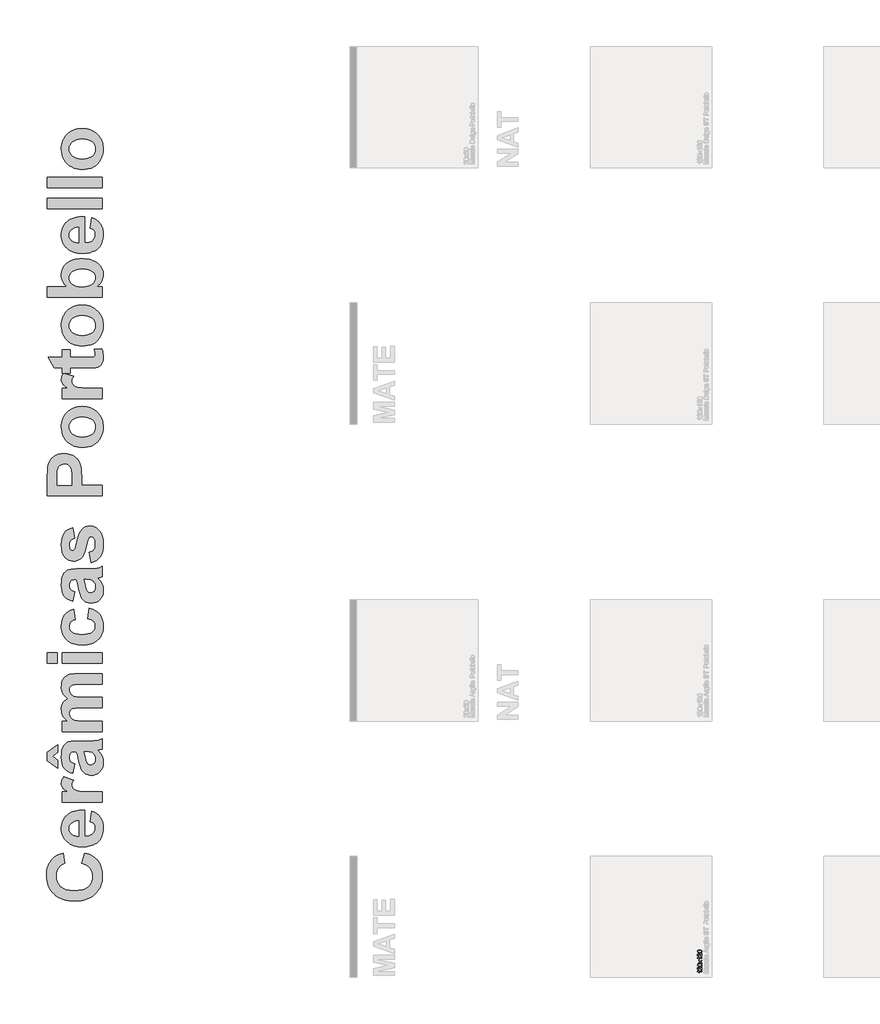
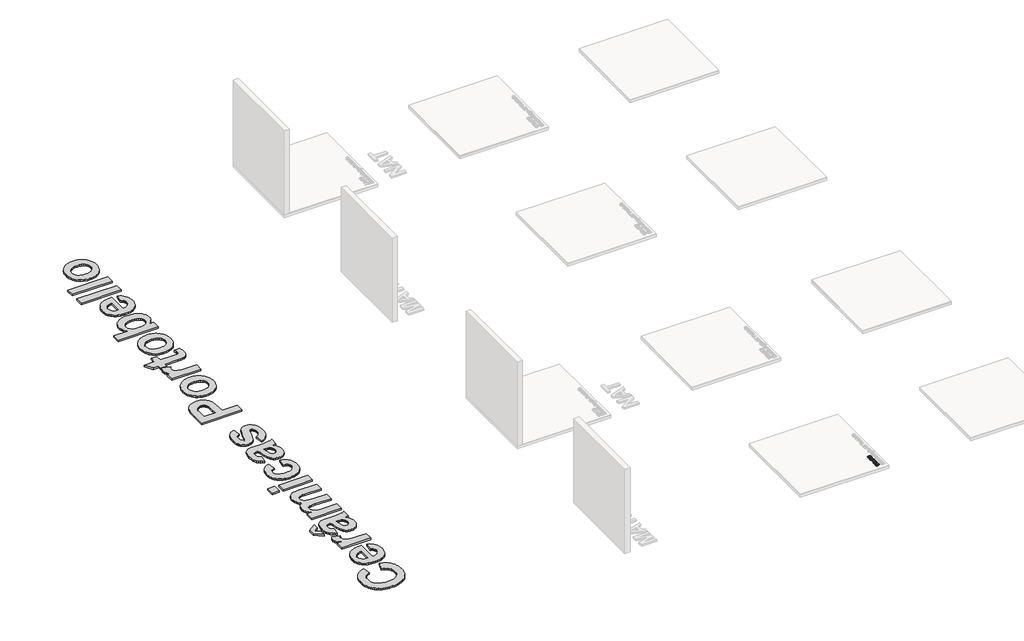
# One storey, part 7 of 21: 2 proxies.
"""IFC4 building model written with IfcOpenShell, lengths in millimetres."""

from ifc_helpers import new_model, si_unit, frame, origin, origin_with_axes, place, context, project, spatial, polyline, outline, extrude, element, save

model = new_model("IFC4")

# Units and contexts
model_context = context("Model", 3, world=origin())
ifc_project = project(units=[si_unit("LENGTHUNIT", "METRE", prefix="MILLI")], contexts=[model_context])

# Site, building, storey
site = spatial("IfcSite", under=ifc_project)
building = spatial("IfcBuilding", under=site)
storey = spatial("IfcBuildingStorey", under=building, Name="PORTOBELLO - SHOWROOM", Elevation=0.0)

# Proxies
placement = place(None, origin())
element("IfcBuildingElementProxy", 1, Name="10mm Arial", ObjectType="10mm Arial", at=placement, inside=storey, context=model_context, shape_type="SweptSolid", body=[
    extrude(outline(polyline([(23019.4374935, 4712.2496861), (23019.4374935, 4699.6926473), (22941.1522049, 4699.6926473), (22949.6257535, 4687.7977962), (22955.9655865, 4674.5785698), (22944.0952608, 4674.5785698), (22932.3475625, 4692.9849323), (22918.9811833, 4704.1562822), (22918.9811833, 4712.2496861), (23019.4374935, 4712.2496861)])), frame((0.0, 0.0, 17.0), z_axis=(0.0, 0.0, 1.0), x_axis=(1.0, 0.0, 0.0)), (0.0, 0.0, 1.0), 20.0),
    extrude(outline(polyline([(23006.8804547, 4806.4274769), (23019.4374935, 4806.4274769), (23019.4374935, 4740.5030233), (23010.7800038, 4741.851924), (22997.4504129, 4749.4916067), (22982.8945486, 4765.2246934), (22961.9743258, 4786.8929429), (22947.7495553, 4792.3008083), (22936.2348489, 4787.1872485), (22931.5382221, 4773.8331321), (22936.1244843, 4759.9149299), (22948.8041504, 4754.6296919), (22947.2345205, 4742.0726532), (22935.0882833, 4745.1168767), (22926.2161959, 4751.6988987), (22920.7899364, 4761.4753627), (22918.9811833, 4774.1029122), (22920.9922715, 4786.8224322), (22927.0255363, 4796.5805021), (22936.0386451, 4802.7885108), (22946.9892659, 4804.857847), (22958.8963798, 4802.6260296), (22971.2081639, 4795.207076), (22988.4127785, 4777.2176465), (23000.4915707, 4762.7721468), (23006.8804547, 4757.106764), (23006.8804547, 4806.4274769)])), frame((0.0, 0.0, 17.0), z_axis=(0.0, 0.0, 1.0), x_axis=(1.0, 0.0, 0.0)), (0.0, 0.0, 1.0), 20.0),
    extrude(outline(polyline([(22970.0186788, 4818.9845156), (22941.1154167, 4822.6755983), (22924.4503623, 4833.6384818), (22918.9811833, 4851.9467424), (22922.2185449, 4866.6129713), (22931.5504848, 4876.7419889), (22946.4129174, 4882.6281008), (22970.0186788, 4884.9089692), (22998.7993135, 4881.2546747), (23015.5011561, 4870.3285794), (23019.6306315, 4862.0972198), (23021.0071233, 4851.9467424), (23018.6158903, 4838.8991943), (23011.4421914, 4828.9909059), (22994.4521746, 4821.4861132), (22970.0186788, 4818.9845156)]), holes=[polyline([(22969.9941533, 4831.5415544), (22989.7463508, 4833.0130824), (23001.1782838, 4837.4276663), (23006.6321343, 4844.0004913), (23008.4500845, 4851.9467424), (23006.626003, 4859.8929935), (23001.1537583, 4866.4658185), (22989.7156939, 4870.8804024), (22969.9941533, 4872.3519304), (22950.6864799, 4870.9294534), (22939.1656421, 4866.6620222), (22933.4450771, 4860.10146), (22931.5382221, 4851.7995896), (22933.2182165, 4843.9391776), (22938.2581998, 4837.6238701), (22950.4964076, 4833.0621333), (22969.9941533, 4831.5415544)])]), frame((0.0, 0.0, 17.0), z_axis=(0.0, 0.0, 1.0), x_axis=(1.0, 0.0, 0.0)), (0.0, 0.0, 1.0), 20.0),
    extrude(outline(polyline([(23019.4374935, 4891.1874886), (22982.3304629, 4918.0183487), (22945.6648907, 4892.7571184), (22945.6648907, 4907.8157547), (22963.3477519, 4920.0049115), (22971.661885, 4925.7193452), (22964.8438054, 4930.6734894), (22945.6648907, 4944.5549033), (22945.6648907, 4959.6625906), (22982.3549883, 4933.126036), (23019.4374935, 4958.6815719), (23019.4374935, 4943.5984101), (22997.1193191, 4928.1964173), (22993.0235662, 4925.4005141), (23019.4374935, 4906.2951758), (23019.4374935, 4891.1874886)])), frame((0.0, 0.0, 17.0), z_axis=(0.0, 0.0, 1.0), x_axis=(1.0, 0.0, 0.0)), (0.0, 0.0, 1.0), 20.0),
    extrude(outline(polyline([(23019.4374935, 5013.6186166), (23019.4374935, 5001.0615778), (22941.1522049, 5001.0615778), (22949.6257535, 4989.1667266), (22955.9655865, 4975.9475002), (22944.0952608, 4975.9475002), (22932.3475625, 4994.3538627), (22918.9811833, 5005.5252127), (22918.9811833, 5013.6186166), (23019.4374935, 5013.6186166)])), frame((0.0, 0.0, 17.0), z_axis=(0.0, 0.0, 1.0), x_axis=(1.0, 0.0, 0.0)), (0.0, 0.0, 1.0), 20.0),
    extrude(outline(polyline([(23006.8804547, 5107.7964073), (23019.4374935, 5107.7964073), (23019.4374935, 5041.8719538), (23010.7800038, 5043.2208544), (22997.4504129, 5050.8605372), (22982.8945486, 5066.5936239), (22961.9743258, 5088.2618734), (22947.7495553, 5093.6697387), (22936.2348489, 5088.556179), (22931.5382221, 5075.2020625), (22936.1244843, 5061.2838604), (22948.8041504, 5055.9986224), (22947.2345205, 5043.4415836), (22935.0882833, 5046.4858071), (22926.2161959, 5053.0678292), (22920.7899364, 5062.8442932), (22918.9811833, 5075.4718427), (22920.9922715, 5088.1913627), (22927.0255363, 5097.9494326), (22936.0386451, 5104.1574412), (22946.9892659, 5106.2267775), (22958.8963798, 5103.99496), (22971.2081639, 5096.5760065), (22988.4127785, 5078.5865769), (23000.4915707, 5064.1410772), (23006.8804547, 5058.4756945), (23006.8804547, 5107.7964073)])), frame((0.0, 0.0, 17.0), z_axis=(0.0, 0.0, 1.0), x_axis=(1.0, 0.0, 0.0)), (0.0, 0.0, 1.0), 20.0),
    extrude(outline(polyline([(22970.0186788, 5120.3534461), (22941.1154167, 5124.0445288), (22924.4503623, 5135.0074122), (22918.9811833, 5153.3156729), (22922.2185449, 5167.9819017), (22931.5504848, 5178.1109193), (22946.4129174, 5183.9970313), (22970.0186788, 5186.2778996), (22998.7993135, 5182.6236051), (23015.5011561, 5171.6975099), (23019.6306315, 5163.4661502), (23021.0071233, 5153.3156729), (23018.6158903, 5140.2681248), (23011.4421914, 5130.3598364), (22994.4521746, 5122.8550437), (22970.0186788, 5120.3534461)]), holes=[polyline([(22969.9941533, 5132.9104849), (22989.7463508, 5134.3820128), (23001.1782838, 5138.7965968), (23006.6321343, 5145.3694218), (23008.4500845, 5153.3156729), (23006.626003, 5161.2619239), (23001.1537583, 5167.8347489), (22989.7156939, 5172.2493329), (22969.9941533, 5173.7208609), (22950.6864799, 5172.2983838), (22939.1656421, 5168.0309527), (22933.4450771, 5161.4703904), (22931.5382221, 5153.1685201), (22933.2182165, 5145.3081081), (22938.2581998, 5138.9928005), (22950.4964076, 5134.4310638), (22969.9941533, 5132.9104849)])]), frame((0.0, 0.0, 17.0), z_axis=(0.0, 0.0, 1.0), x_axis=(1.0, 0.0, 0.0)), (0.0, 0.0, 1.0), 20.0),
])
element("IfcBuildingElementProxy", 2, Name="1200mm Arial", ObjectType="1200mm Arial", at=placement, inside=storey, context=model_context, shape_type="SweptSolid", body=[
    extrude(outline(polyline([(9212.435838, 7109.5470521), (9290.1698875, 7342.7492006), (9337.8545838, 7327.789761), (9382.3746921, 7310.5434677), (9423.7302122, 7291.0103206), (9461.9211443, 7269.1903198), (9496.9474884, 7245.0834652), (9528.8092443, 7218.6897568), (9557.5064122, 7190.0091947), (9583.038992, 7159.0417789), (9605.4923849, 7125.8491879), (9624.9519921, 7090.4931005), (9641.4178136, 7052.9735165), (9654.8898493, 7013.290436), (9665.3680993, 6971.4438591), (9672.8525636, 6927.4337856), (9678.8401351, 6832.9231493), (9676.2828443, 6773.1755366), (9668.6109718, 6716.1512726), (9655.8245178, 6661.8503573), (9637.9234821, 6610.2727906), (9614.9078647, 6561.4185726), (9586.7776658, 6515.2877033), (9553.5328852, 6471.8801826), (9515.173523, 6431.1960105), (9472.3780441, 6394.3311689), (9425.8249133, 6362.3816395), (9375.5141308, 6335.3474224), (9321.4456965, 6313.2285174), (9263.6196103, 6296.0249247), (9202.0358723, 6283.7366441), (9136.6944826, 6276.3636758), (9067.595441, 6273.9060197), (8994.6153904, 6276.3850261), (8925.8294864, 6283.8220453), (8861.2377292, 6296.2170773), (8800.8401187, 6313.5701221), (8744.6366549, 6335.8811797), (8692.6273379, 6363.1502501), (8644.8121675, 6395.3773334), (8601.1911439, 6432.5624294), (8562.2624405, 6473.7898478), (8528.5242309, 6518.1438982), (8499.9765151, 6565.6245806), (8476.619293, 6616.231895), (8458.4525648, 6669.9658414), (8445.4763303, 6726.8264198), (8437.6905896, 6786.8136302), (8435.0953427, 6849.9274726), (8437.2351167, 6905.0776552), (8443.6544385, 6957.5709123), (8454.3533083, 7007.4072438), (8469.3317259, 7054.5866499), (8488.5896914, 7099.1091304), (8512.1272048, 7140.9746854), (8539.9442661, 7180.1833148), (8572.0408753, 7216.7350188), (8616.8480264, 7256.1524067), (8670.4989439, 7290.2938996), (8732.9936277, 7319.1594976), (8804.332078, 7342.7492006), (8843.1991027, 7109.5470521), (8800.489025, 7094.8485605), (8762.5424351, 7073.8303818), (8729.3593332, 7046.492516), (8700.9397191, 7012.8349631), (8678.1565828, 6974.0343615), (8661.882914, 6931.2673496), (8652.1187127, 6884.5339275), (8648.8639789, 6833.8340952), (8654.7756382, 6764.5357842), (8662.1652123, 6732.4557808), (8672.5106161, 6702.0885454), (8685.8118495, 6673.4340781), (8702.0689125, 6646.4923789), (8721.2818052, 6621.2634477), (8743.4505275, 6597.7472846), (8768.9261732, 6576.5037417), (8798.0598359, 6558.0926712), (8830.8515158, 6542.5140731), (8867.3012128, 6529.7679474), (8907.4089269, 6519.854294), (8951.1746581, 6512.773113), (9049.6801718, 6507.1081683), (9153.9455204, 6512.6023107), (9200.0147111, 6519.4699887), (9242.0415795, 6529.0847379), (9280.0261254, 6541.4465584), (9313.9683489, 6556.55545), (9343.86825, 6574.4114129), (9369.7258288, 6595.0144469), (9392.0724702, 6617.8189336), (9411.4395595, 6642.2792541), (9427.8270965, 6668.3954086), (9441.2350814, 6696.1673971), (9451.663514, 6725.5952195), (9459.1123945, 6756.6788758), (9465.0714989, 6823.8136903), (9461.266402, 6873.7923572), (9449.8511113, 6920.1841746), (9430.8256267, 6962.9891425), (9404.1899484, 7002.207261), (9369.374735, 7036.9845183), (9325.8106455, 7066.4669025), (9273.4976798, 7090.6544138), (9212.435838, 7109.5470521)])), origin_with_axes(), (0.0, 0.0, 1.0), 50.0),
    extrude(outline(polyline([(9406.7709618, 8042.3556463), (9445.6379865, 8275.5577949), (9503.7392542, 8250.3549585), (9554.4580646, 8218.7755009), (9597.7944177, 8180.819422), (9633.7483134, 8136.4867219), (9661.978147, 8085.986159), (9682.1423139, 8029.5264916), (9694.2408141, 7967.1077199), (9698.2736475, 7898.7298439), (9695.896648, 7844.0873238), (9688.7656497, 7793.1170544), (9676.8806525, 7745.8190356), (9660.2416564, 7702.1932675), (9638.8486615, 7662.23975), (9612.7016676, 7625.9584831), (9581.8006749, 7593.3494668), (9546.1456834, 7564.4127012), (9514.7038165, 7544.3434245), (9481.2597665, 7526.9500514), (9445.8135334, 7512.2325818), (9408.3651171, 7500.1910158), (9327.461735, 7484.1355944), (9238.5496202, 7478.7837873), (9184.6330102, 7480.558234), (9133.7149304, 7485.881574), (9085.7953808, 7494.7538075), (9040.8743615, 7507.1749343), (8998.9518724, 7523.1449544), (8960.0279135, 7542.663868), (8924.1024848, 7565.7316749), (8891.1755864, 7592.3483752), (8861.7121802, 7621.6789352), (8836.1772281, 7652.888321), (8814.5707302, 7685.9765328), (8796.8926865, 7720.9435704), (8783.1430969, 7757.789434), (8773.3219615, 7796.5141235), (8767.4292803, 7837.1176388), (8765.4650532, 7879.5999801), (8767.4814699, 7927.0498232), (8773.53072, 7971.928142), (8783.6128034, 8014.2349364), (8797.7277202, 8053.9702064), (8815.8754705, 8091.1339522), (8838.056054, 8125.7261735), (8864.269471, 8157.7468706), (8894.5157214, 8187.1960433), (8928.9276514, 8213.5233285), (8967.6381073, 8236.178363), (9010.6470892, 8255.161147), (9057.954597, 8270.4716803), (9109.5606307, 8282.109963), (9165.4651904, 8290.075995), (9225.6682759, 8294.3697764), (9290.1698875, 8294.9913072), (9290.1698875, 7711.9859358), (9342.3594959, 7716.3319069), (9388.4002196, 7726.9406309), (9428.2920585, 7743.812108), (9462.0350126, 7766.946338), (9488.8699603, 7794.825078), (9508.0377802, 7825.9300846), (9519.5384721, 7860.2613579), (9523.372036, 7897.818898), (9521.6450344, 7923.344361), (9516.4640297, 7946.7822397), (9507.8290217, 7968.1325341), (9495.7400106, 7987.3952441), (9479.8174355, 8004.4944576), (9459.6817357, 8019.3542625), (9435.3329111, 8031.9746587), (9406.7709618, 8042.3556463)]), holes=[polyline([(9154.1353008, 8061.7891587), (9104.8967775, 8057.632968), (9061.9399852, 8047.5935852), (9025.264924, 8031.6710101), (8994.8715939, 8009.8652428), (8971.0256873, 7983.7894166), (8953.9928969, 7955.0566649), (8943.7732227, 7923.6669877), (8940.3666646, 7889.6203849), (8943.9535141, 7853.4482418), (8954.7140624, 7820.5403214), (8972.6483097, 7790.8966238), (8997.7562559, 7764.517149), (9029.1649111, 7743.0340083), (9065.697637, 7727.7756646), (9107.3544336, 7718.7421179), (9154.1353008, 7715.933368), (9154.1353008, 8061.7891587)])]), origin_with_axes(), (0.0, 0.0, 1.0), 50.0),
    extrude(outline(polyline([(9678.8401351, 8703.0950672), (9678.8401351, 8469.8929187), (8784.8985656, 8469.8929187), (8784.8985656, 8703.0950672), (8909.3945043, 8703.0950672), (8836.1772281, 8752.3620576), (8810.9269467, 8775.0028586), (8793.2489029, 8796.3151969), (8781.0934687, 8817.6844693), (8772.4110156, 8840.4960727), (8767.2015438, 8864.7500071), (8765.4650532, 8890.4462725), (8768.5394956, 8927.1687788), (8777.7628228, 8963.2460318), (8793.1350347, 8998.6780314), (8814.6561314, 9033.4647777), (9036.6232806, 8965.4474844), (9020.0174961, 8936.8286009), (9008.1562215, 8909.2724876), (9001.0394567, 8882.7791446), (8998.6672018, 8857.3485717), (9000.3277802, 8833.9960942), (9005.3095156, 8812.5224426), (9013.6124078, 8792.9276169), (9025.236457, 8775.2116171), (9041.1874991, 8759.3269981), (9062.4713703, 8745.2263148), (9089.0880707, 8732.9095672), (9121.0376, 8722.3767553), (9165.1425637, 8713.9410168), (9228.2255668, 8707.9154892), (9411.3256912, 8703.0950672), (9678.8401351, 8703.0950672)])), origin_with_axes(), (0.0, 0.0, 1.0), 50.0),
    extrude(outline(polyline([(9056.9677389, 9324.9674634), (9018.1007142, 9111.1988272), (8957.9023731, 9131.2870819), (8906.0543693, 9157.5431995), (8862.556703, 9189.9671799), (8827.4093739, 9228.5590231), (8800.3087336, 9275.2734671), (8780.9511334, 9332.0652501), (8769.3365733, 9398.9343721), (8765.4650532, 9475.880833), (8767.8088411, 9545.663084), (8774.8402047, 9605.9183592), (8786.559144, 9656.6466586), (8802.9656591, 9697.8479822), (8822.9685127, 9731.5909363), (8845.4764675, 9759.9441272), (8870.4895234, 9782.9075549), (8898.0076806, 9800.4812194), (8932.8039159, 9813.5001545), (8979.6512063, 9822.7993938), (9038.5495516, 9828.3789374), (9109.4989521, 9830.2387853), (9385.211909, 9830.2387853), (9487.5414976, 9833.3132277), (9558.8989259, 9842.5365548), (9616.8199022, 9860.1861315), (9678.8401351, 9888.5393224), (9678.8401351, 9655.3371738), (9604.7498691, 9633.4744724), (9575.2959519, 9625.2759594), (9604.0571707, 9595.6132838), (9629.0038035, 9564.925794), (9650.1358504, 9533.2134901), (9667.4533114, 9500.4763721), (9680.9372084, 9466.6764838), (9690.5685634, 9431.7758693), (9696.3473765, 9395.7745285), (9698.2736475, 9358.6724614), (9693.5955607, 9295.6938376), (9679.5613006, 9239.7560663), (9656.170867, 9190.8591477), (9623.4242599, 9149.0030818), (9583.5419101, 9115.4593971), (9538.744248, 9091.4996223), (9489.0312737, 9077.1237574), (9434.4029872, 9072.3318024), (9397.6235467, 9074.4668319), (9362.8937346, 9080.8719202), (9330.2135507, 9091.5470674), (9299.582995, 9106.4922734), (9271.7042551, 9125.2900215), (9247.2795184, 9147.5227947), (9226.3087848, 9173.190593), (9208.7920544, 9202.2934165), (9193.5147326, 9236.5108216), (9179.262225, 9277.5223648), (9153.8316522, 9379.9278656), (9123.8463499, 9512.5464051), (9109.5938423, 9560.8075594), (9095.8347637, 9597.0366367), (9071.2392246, 9597.0366367), (9038.4072163, 9595.2242339), (9010.6613227, 9589.7870256), (8988.0015436, 9580.7250118), (8970.4278791, 9568.0381925), (8957.2760978, 9550.3411707), (8947.8819682, 9526.2485496), (8942.2454905, 9495.7603293), (8940.3666646, 9458.8765096), (8941.979798, 9433.1992223), (8946.819198, 9410.5204652), (8954.8848648, 9390.8402383), (8966.1767983, 9374.1585416), (8981.5300322, 9359.6972755), (9001.7796002, 9346.6783405), (9056.9677389, 9324.9674634)]), holes=[polyline([(9270.7363751, 9597.0366367), (9285.6531141, 9543.3667412), (9303.0749543, 9465.5567795), (9321.6354769, 9391.1628649), (9339.9682629, 9347.7411107), (9355.5492333, 9329.2754783), (9373.1418759, 9316.0857409), (9392.7461906, 9308.1718985), (9414.3621775, 9305.533951), (9435.778895, 9307.6500024), (9455.6963474, 9313.9981566), (9474.1145347, 9324.5784136), (9491.0334568, 9339.3907734), (9505.1815852, 9357.4673559), (9515.2873912, 9377.8402812), (9521.3508748, 9400.5095494), (9523.372036, 9425.4751602), (9521.0187591, 9454.4166704), (9513.9589285, 9482.637015), (9502.192544, 9510.1361941), (9485.7196058, 9536.9142078), (9470.6510425, 9554.9433452), (9453.9883239, 9569.5564356), (9435.7314499, 9580.7534789), (9415.8804207, 9588.534475), (9376.6338351, 9594.9110963), (9312.9435348, 9597.0366367), (9270.7363751, 9597.0366367)])]), origin_with_axes(), (0.0, 0.0, 1.0), 50.0),
    extrude(outline(polyline([(8687.7310037, 9227.7999015), (8454.5288551, 9394.1993512), (8454.5288551, 9588.534475), (8687.7310037, 9752.5047357), (8687.7310037, 9577.6031243), (8571.1299294, 9490.1523186), (8687.7310037, 9402.7015129), (8687.7310037, 9227.7999015)])), origin_with_axes(), (0.0, 0.0, 1.0), 50.0),
    extrude(outline(polyline([(8784.8985656, 10044.0074215), (8784.8985656, 10277.20957), (8904.5361262, 10277.20957), (8871.9413435, 10305.2638568), (8843.6925318, 10334.6181393), (8819.7896911, 10365.2724175), (8800.2328215, 10397.2266914), (8785.0219228, 10430.480961), (8774.1569953, 10465.0352263), (8767.6380387, 10500.8894873), (8765.4650532, 10538.043744), (8767.6000826, 10576.9392358), (8774.005171, 10613.1588241), (8784.6803181, 10646.7025088), (8799.6255242, 10677.5702899), (8818.8977232, 10705.7811455), (8842.5538494, 10731.3540537), (8870.5939027, 10754.2890143), (8903.017883, 10774.5860275), (8870.5939027, 10803.8596533), (8842.5538494, 10834.2909395), (8818.8977232, 10865.8798862), (8799.6255242, 10898.6264932), (8784.6803181, 10932.5117826), (8774.005171, 10967.5167764), (8767.6000826, 11003.6414744), (8765.4650532, 11040.8858768), (8767.9606654, 11087.0214907), (8775.447502, 11129.4753649), (8787.9255629, 11168.2474995), (8805.3948482, 11203.3378944), (8827.7035335, 11234.4998351), (8854.6997946, 11261.4866072), (8886.3836315, 11284.2982106), (8922.755044, 11302.9346453), (8955.7198985, 11313.2966549), (8997.5285194, 11320.6980902), (9048.1809067, 11325.1389515), (9107.6770603, 11326.6192385), (9678.8401351, 11326.6192385), (9678.8401351, 11093.41709), (9164.1557056, 11093.41709), (9103.1413089, 11091.9368029), (9054.0071648, 11087.4959417), (9016.7532734, 11080.0945063), (8991.3796346, 11069.7324968), (8969.0614603, 11051.7792715), (8953.1199071, 11029.4990532), (8943.5549753, 11002.8918419), (8940.3666646, 10971.9576376), (8942.2739576, 10948.3204895), (8947.9958365, 10925.3855288), (8957.5323013, 10903.1527556), (8970.883352, 10881.6221699), (8987.9161424, 10861.922965), (9008.4978262, 10845.1843342), (9032.6284033, 10831.4062776), (9060.3078739, 10820.5887951), (9094.0318499, 10812.4187491), (9136.2959437, 10806.583002), (9246.4444846, 10801.9144043), (9678.8401351, 10801.9144043), (9678.8401351, 10568.7122557), (9185.4111098, 10568.7122557), (9077.2742411, 10565.6757694), (9040.7130481, 10561.8801615), (9015.8233494, 10556.5663105), (8982.5738243, 10541.1181864), (8959.0410554, 10519.0657046), (8945.0352623, 10489.1183583), (8940.3666646, 10449.985641), (8942.2170235, 10424.3842658), (8947.7681, 10400.1113534), (8957.0198942, 10377.1669037), (8969.9724061, 10355.5509168), (8986.4263663, 10336.0794483), (9006.1825054, 10319.568554), (9029.2408233, 10306.0182339), (9055.6013201, 10295.4284879), (9088.2150808, 10287.4577113), (9130.0331907, 10281.7642995), (9241.2824579, 10277.20957), (9678.8401351, 10277.20957), (9678.8401351, 10044.0074215), (8784.8985656, 10044.0074215)])), origin_with_axes(), (0.0, 0.0, 1.0), 50.0),
    extrude(outline(polyline([(8668.2974913, 11559.8213871), (8454.5288551, 11559.8213871), (8454.5288551, 11793.0235357), (8668.2974913, 11793.0235357), (8668.2974913, 11559.8213871)])), origin_with_axes(), (0.0, 0.0, 1.0), 50.0),
    extrude(outline(polyline([(9678.8401351, 11559.8213871), (8784.8985656, 11559.8213871), (8784.8985656, 11793.0235357), (9678.8401351, 11793.0235357), (9678.8401351, 11559.8213871)])), origin_with_axes(), (0.0, 0.0, 1.0), 50.0),
    extrude(outline(polyline([(9037.5342265, 12764.6991547), (9076.4012513, 12531.4970061), (9044.6415023, 12524.2948401), (9017.0759, 12513.619693), (8993.7044445, 12499.4715646), (8974.5271356, 12481.8504549), (8959.5819296, 12461.0410347), (8948.9067824, 12437.3279744), (8942.5016941, 12410.7112741), (8940.3666646, 12381.1909338), (8944.371031, 12342.1341286), (8956.3841299, 12307.2524922), (8976.4059615, 12276.5460244), (9004.4365258, 12250.0147252), (9041.8422415, 12228.6264748), (9089.9895275, 12213.349153), (9148.8783839, 12204.18276), (9218.5088106, 12201.1272956), (9295.8822773, 12204.3061173), (9360.9959306, 12213.8425821), (9413.8497705, 12229.7366901), (9454.4437968, 12251.9884413), (9484.5999015, 12279.5919997), (9506.1399762, 12311.5415291), (9519.0640211, 12347.8370295), (9523.372036, 12388.4785009), (9520.9143799, 12419.0616115), (9513.5414116, 12446.741082), (9501.2531311, 12471.5169125), (9484.0495383, 12493.3891029), (9460.8299071, 12512.3007192), (9430.493511, 12528.1948272), (9393.0403502, 12541.071427), (9348.4704246, 12550.9305185), (9387.3374494, 12784.132667), (9459.5963345, 12762.6400374), (9522.4231341, 12733.081741), (9575.817848, 12695.4577778), (9619.7804764, 12649.7681479), (9638.1773133, 12623.8512628), (9654.1212387, 12595.8230708), (9678.6503547, 12533.4327661), (9693.3678243, 12462.5972339), (9698.2736475, 12383.3164742), (9696.3426319, 12337.0741089), (9690.5495854, 12293.23721), (9680.8945078, 12251.8057777), (9667.3773993, 12212.7798119), (9649.9982596, 12176.1593125), (9628.757089, 12141.9442797), (9603.6538873, 12110.1347133), (9574.6886547, 12080.7306135), (9542.3121194, 12054.2918323), (9506.97501, 12031.3782219), (9468.6773264, 12011.9897824), (9427.4190687, 11996.1265137), (9383.2002368, 11983.7884158), (9336.0208307, 11974.9754887), (9285.8808506, 11969.6877325), (9232.7802962, 11967.9251471), (9179.0463498, 11969.6758712), (9128.3726123, 11974.9280436), (9080.7590836, 11983.6816643), (9036.2057638, 11995.9367333), (8994.7126528, 12011.6932505), (8956.2797507, 12030.951216), (8920.9070574, 12053.7106298), (8888.5945731, 12079.9714919), (8859.7360918, 12109.2213952), (8834.7254081, 12140.9479326), (8813.5625219, 12175.1511042), (8796.2474332, 12211.8309099), (8782.7801419, 12250.9873497), (8773.1606482, 12292.6204238), (8767.388952, 12336.7301319), (8765.4650532, 12383.3164742), (8769.6686889, 12457.5016304), (8782.2795961, 12523.6780539), (8803.2977748, 12581.8457447), (8832.723225, 12632.0047029), (8870.745727, 12674.9140501), (8917.5550612, 12711.3329078), (8973.1512278, 12741.261276), (9037.5342265, 12764.6991547)])), origin_with_axes(), (0.0, 0.0, 1.0), 50.0),
    extrude(outline(polyline([(9056.9677389, 13153.3694023), (9018.1007142, 12939.6007661), (8957.9023731, 12959.6890208), (8906.0543693, 12985.9451384), (8862.556703, 13018.3691188), (8827.4093739, 13056.9609619), (8800.3087336, 13103.675406), (8780.9511334, 13160.467189), (8769.3365733, 13227.336311), (8765.4650532, 13304.2827718), (8767.8088411, 13374.0650228), (8774.8402047, 13434.320298), (8786.559144, 13485.0485975), (8802.9656591, 13526.2499211), (8822.9685127, 13559.9928752), (8845.4764675, 13588.3460661), (8870.4895234, 13611.3094938), (8898.0076806, 13628.8831583), (8932.8039159, 13641.9020934), (8979.6512063, 13651.2013327), (9038.5495516, 13656.7808763), (9109.4989521, 13658.6407242), (9385.211909, 13658.6407242), (9487.5414976, 13661.7151665), (9558.8989259, 13670.9384937), (9616.8199022, 13688.5880704), (9678.8401351, 13716.9412613), (9678.8401351, 13483.7391127), (9604.7498691, 13461.8764113), (9575.2959519, 13453.6778983), (9604.0571707, 13424.0152226), (9629.0038035, 13393.3277329), (9650.1358504, 13361.615429), (9667.4533114, 13328.878311), (9680.9372084, 13295.0784227), (9690.5685634, 13260.1778082), (9696.3473765, 13224.1764674), (9698.2736475, 13187.0744003), (9693.5955607, 13124.0957764), (9679.5613006, 13068.1580052), (9656.170867, 13019.2610866), (9623.4242599, 12977.4050206), (9583.5419101, 12943.8613359), (9538.744248, 12919.9015612), (9489.0312737, 12905.5256963), (9434.4029872, 12900.7337413), (9397.6235467, 12902.8687708), (9362.8937346, 12909.2738591), (9330.2135507, 12919.9490063), (9299.582995, 12934.8942123), (9271.7042551, 12953.6919604), (9247.2795184, 12975.9247336), (9226.3087848, 13001.5925319), (9208.7920544, 13030.6953554), (9193.5147326, 13064.9127605), (9179.262225, 13105.9243037), (9153.8316522, 13208.3298045), (9123.8463499, 13340.948344), (9109.5938423, 13389.2094983), (9095.8347637, 13425.4385756), (9071.2392246, 13425.4385756), (9038.4072163, 13423.6261728), (9010.6613227, 13418.1889645), (8988.0015436, 13409.1269507), (8970.4278791, 13396.4401313), (8957.2760978, 13378.7431096), (8947.8819682, 13354.6504885), (8942.2454905, 13324.1622682), (8940.3666646, 13287.2784485), (8941.979798, 13261.6011612), (8946.819198, 13238.922404), (8954.8848648, 13219.2421771), (8966.1767983, 13202.5604805), (8981.5300322, 13188.0992144), (9001.7796002, 13175.0802794), (9056.9677389, 13153.3694023)]), holes=[polyline([(9270.7363751, 13425.4385756), (9285.6531141, 13371.7686801), (9303.0749543, 13293.9587184), (9321.6354769, 13219.5648038), (9339.9682629, 13176.1430496), (9355.5492333, 13157.6774172), (9373.1418759, 13144.4876798), (9392.7461906, 13136.5738374), (9414.3621775, 13133.9358899), (9435.778895, 13136.0519413), (9455.6963474, 13142.4000955), (9474.1145347, 13152.9803525), (9491.0334568, 13167.7927122), (9505.1815852, 13185.8692948), (9515.2873912, 13206.2422201), (9521.3508748, 13228.9114882), (9523.372036, 13253.8770991), (9521.0187591, 13282.8186092), (9513.9589285, 13311.0389539), (9502.192544, 13338.538133), (9485.7196058, 13365.3161467), (9470.6510425, 13383.3452841), (9453.9883239, 13397.9583745), (9435.7314499, 13409.1554178), (9415.8804207, 13416.9364139), (9376.6338351, 13423.3130352), (9312.9435348, 13425.4385756), (9270.7363751, 13425.4385756)])]), origin_with_axes(), (0.0, 0.0, 1.0), 50.0),
    extrude(outline(polyline([(9426.2044741, 13794.6753108), (9387.3374494, 14027.8774594), (9418.7271266, 14037.0723195), (9446.0934595, 14050.0817655), (9469.436448, 14066.9057975), (9488.7560921, 14087.5444154), (9503.9005676, 14112.3202458), (9514.7180501, 14141.5559156), (9521.2085395, 14175.2514246), (9523.372036, 14213.4067729), (9521.3034297, 14255.1394816), (9515.0976108, 14291.3685589), (9504.7545793, 14322.0940047), (9490.2743353, 14347.3158191), (9477.7488292, 14360.6004467), (9463.2496071, 14370.0894664), (9446.7766689, 14375.7828783), (9428.3300145, 14377.6806822), (9404.1899484, 14373.6573379), (9384.6046117, 14361.5873048), (9368.5871464, 14334.0311915), (9353.9361, 14285.3714984), (9323.4573686, 14160.1354162), (9294.269144, 14060.1401264), (9266.371426, 13985.3856291), (9239.7642147, 13935.8719242), (9220.8193869, 13911.8884269), (9200.1190904, 13891.1027292), (9177.6633252, 13873.5148311), (9153.4520914, 13859.1247327), (9127.4853889, 13847.932434), (9099.7632178, 13839.9379349), (9070.2855781, 13835.1412354), (9039.0524697, 13833.5423356), (8983.5037483, 13839.026989), (8932.5477124, 13855.4809492), (8886.184362, 13882.9042161), (8844.4136973, 13921.2967899), (8825.9101088, 13944.7489021), (8809.8736655, 13971.2280117), (8796.3043673, 14000.7341185), (8785.2022142, 14033.2672226), (8770.3993435, 14107.4144226), (8765.4650532, 14193.6696119), (8769.4504415, 14275.7875885), (8781.4066063, 14346.6326097), (8801.3335477, 14406.2046755), (8829.2312657, 14454.5037858), (8864.9479359, 14493.8452616), (8908.3317341, 14526.5444235), (8959.3826601, 14552.6012717), (9018.1007142, 14572.015806), (9056.9677389, 14338.8136575), (9030.3795057, 14331.5640464), (9007.0934513, 14321.6575098), (8987.1095758, 14309.0940477), (8970.4278791, 14293.8736601), (8957.2760978, 14275.5788301), (8947.8819682, 14253.7920408), (8942.2454905, 14228.5132923), (8940.3666646, 14199.7425845), (8941.9608199, 14163.7791998), (8946.7432859, 14133.3194465), (8954.7140624, 14108.3633246), (8965.8731496, 14088.9108342), (8986.8249052, 14072.2860717), (9013.2423361, 14066.7444841), (9036.0918955, 14072.2860717), (9055.4494958, 14088.9108342), (9068.1837602, 14112.9654992), (9083.3092576, 14155.3719283), (9120.7339514, 14295.2400789), (9143.0711038, 14376.8551375), (9167.8754014, 14445.1286344), (9195.146844, 14500.0605695), (9224.8854318, 14541.6509429), (9259.4064855, 14571.9398939), (9300.1143801, 14593.5748588), (9347.0091156, 14606.5558378), (9400.0906919, 14610.8828308), (9430.1447896, 14609.3147703), (9459.1218835, 14604.6105887), (9487.0219738, 14596.7702862), (9513.8450602, 14585.7938627), (9539.591143, 14571.6813181), (9564.260222, 14554.4326525), (9610.3673688, 14510.5269583), (9630.9704029, 14483.9316082), (9648.8263657, 14454.3234945), (9663.9352574, 14421.7026169), (9676.2970778, 14386.0689757), (9685.911827, 14347.4225706), (9692.779505, 14305.7634018), (9698.2736475, 14213.4067729), (9693.69994, 14128.7931841), (9679.9788174, 14053.4978126), (9657.1102799, 13987.5206585), (9625.0943274, 13930.8617218), (9585.2214665, 13883.3502001), (9538.7822041, 13844.815291), (9485.7765399, 13815.2569946), (9426.2044741, 13794.6753108)])), origin_with_axes(), (0.0, 0.0, 1.0), 50.0),
    extrude(outline(polyline([(9678.8401351, 15291.0557641), (8454.5288551, 15291.0557641), (8454.5288551, 15685.4953357), (8459.0835846, 15870.7969127), (8464.7769964, 15934.1266303), (8472.747773, 15977.9089673), (8490.4447948, 16028.1533267), (8516.2074833, 16074.1276272), (8550.0358386, 16115.8318689), (8591.9298606, 16153.2660516), (8641.187362, 16184.1528108), (8697.1061552, 16206.2147817), (8759.6862402, 16219.4519642), (8828.9276171, 16223.8643583), (8882.7208698, 16221.273856), (8932.0542834, 16213.5023488), (8976.9278576, 16200.5498369), (9017.3415926, 16182.4163202), (9053.4757797, 16160.2879262), (9085.5107102, 16135.3507824), (9113.4463843, 16107.6048888), (9137.2828018, 16077.0502453), (9157.2382103, 16044.9678696), (9173.5308571, 16012.6387794), (9186.1607424, 15980.0629747), (9195.127866, 15947.2404555), (9202.7001037, 15897.423102), (9208.108845, 15837.5473876), (9212.435838, 15687.6208761), (9212.435838, 15524.2579126), (9678.8401351, 15524.2579126), (9678.8401351, 15291.0557641)]), holes=[polyline([(8668.2974913, 15524.2579126), (8998.6672018, 15524.2579126), (8998.6672018, 15669.0983096), (8994.1124723, 15799.5533527), (8988.4190605, 15845.3378728), (8980.4482839, 15878.160392), (8970.0388293, 15903.0785578), (8957.0293833, 15925.1500176), (8941.4199458, 15944.3747716), (8923.210517, 15960.7528196), (8902.9135038, 15973.8381778), (8881.0413134, 15983.1848622), (8857.5939456, 15988.7928729), (8832.5714006, 15990.6622098), (8802.2255156, 15988.0337513), (8774.6504243, 15980.1483759), (8749.8461268, 15967.0060836), (8727.812623, 15948.6068744), (8709.1002761, 15926.2032988), (8694.2594493, 15901.0479076), (8683.2901425, 15873.1407006), (8676.1923557, 15842.4816779), (8670.2712074, 15771.2001618), (8668.2974913, 15652.0939863), (8668.2974913, 15524.2579126)])]), origin_with_axes(), (0.0, 0.0, 1.0), 50.0),
    extrude(outline(polyline([(9219.1161078, 16359.898945), (9160.8250597, 16363.4952835), (9103.4639355, 16374.2842989), (9047.0327353, 16392.2659912), (8991.5314589, 16417.4403606), (8939.7498783, 16449.2001095), (8894.4777653, 16486.937941), (8855.7151197, 16530.6538548), (8823.4619417, 16580.3478511), (8798.088303, 16634.5681097), (8779.9642753, 16691.8628108), (8769.0898587, 16752.2319542), (8765.4650532, 16815.67554), (8767.519426, 16864.7930783), (8773.6825443, 16911.6379964), (8783.9544081, 16956.2102943), (8798.3350175, 16998.5099719), (8816.8243724, 17038.5370294), (8839.4224729, 17076.2914666), (8866.1293189, 17111.7732835), (8896.9449104, 17144.9824803), (8930.9013675, 17175.0508115), (8967.03081, 17201.1100319), (9005.3332381, 17223.1601415), (9045.8086517, 17241.2011402), (9088.4570508, 17255.2330281), (9133.2784355, 17265.2558052), (9180.2728056, 17271.2694714), (9229.4401613, 17273.2740269), (9278.98945, 17271.2481212), (9326.3704977, 17265.170404), (9371.5833044, 17255.0408755), (9414.6278701, 17240.8595355), (9455.5041948, 17222.6263841), (9494.2122784, 17200.3414213), (9530.7521211, 17174.0046471), (9565.1237228, 17143.6160614), (9596.3307364, 17110.1577779), (9623.3768148, 17074.6119101), (9646.2619581, 17036.9784579), (9664.9861663, 16997.2574213), (9679.5494393, 16955.4488005), (9689.9517772, 16911.5525953), (9696.1931799, 16865.5688057), (9698.2736475, 16817.4974318), (9694.8101553, 16757.3275578), (9684.4196787, 16698.5810367), (9667.1022177, 16641.2578686), (9642.8577723, 16585.3580535), (9611.914079, 16533.4720937), (9574.4988743, 16488.1904916), (9530.6121581, 16449.5132472), (9480.2539304, 16417.4403606), (9423.737329, 16392.2659912), (9361.3754914, 16374.2842989), (9293.1684177, 16363.4952835), (9219.1161078, 16359.898945)]), holes=[polyline([(9231.8693503, 16593.1010936), (9298.3399334, 16597.1339269), (9356.5550694, 16609.2324271), (9406.5147582, 16629.396594), (9448.2189999, 16657.6264276), (9481.0984532, 16691.7774096), (9504.583777, 16729.7050214), (9518.6749713, 16771.4092631), (9523.372036, 16816.8901346), (9518.6749713, 16862.352028), (9504.583777, 16903.9993356), (9481.0984532, 16941.8320572), (9448.2189999, 16975.8501929), (9406.40089, 17003.9471802), (9356.0995965, 17024.0164569), (9297.3151193, 17036.058023), (9230.0474585, 17040.0718783), (9164.3739531, 17036.058023), (9106.7281583, 17024.0164569), (9057.1100742, 17003.9471802), (9015.5197008, 16975.8501929), (8982.6402475, 16941.8320572), (8959.1549237, 16903.9993356), (8945.0637294, 16862.352028), (8940.3666646, 16816.8901346), (8945.0637294, 16771.4092631), (8959.1549237, 16729.7050214), (8982.6402475, 16691.7774096), (9015.5197008, 16657.6264276), (9057.2239424, 16629.396594), (9107.1836313, 16609.2324271), (9165.3987672, 16597.1339269), (9231.8693503, 16593.1010936)])]), origin_with_axes(), (0.0, 0.0, 1.0), 50.0),
    extrude(outline(polyline([(8784.8985656, 18536.4523316), (8959.800177, 18536.4523316), (8959.800177, 18361.5507201), (9343.3083979, 18361.5507201), (9435.3518891, 18362.8791829), (9478.8875116, 18366.8645712), (9496.4991322, 18375.5565132), (9510.7706178, 18391.0046373), (9520.2216815, 18411.8804807), (9523.372036, 18436.8555806), (9517.7545364, 18483.0101725), (9500.9020373, 18546.1690878), (9666.6941898, 18555.8858439), (9680.5102025, 18512.2932874), (9690.3787831, 18465.929937), (9696.2999314, 18416.7957929), (9698.2736475, 18364.8908551), (9692.8079721, 18302.7947101), (9676.410946, 18247.0751863), (9651.359934, 18201.5658477), (9636.443195, 18184.0775844), (9619.9323007, 18170.1002583), (9579.167472, 18149.3382832), (9526.1048737, 18135.9397874), (9462.718222, 18130.2463755), (9356.365289, 18128.3485716), (8959.800177, 18128.3485716), (8959.800177, 18011.7474973), (8814.6561314, 18011.7474973), (8784.8985656, 18011.7474973), (8784.8985656, 18128.3485716), (8609.9969542, 18128.3485716), (8473.9623675, 18361.5507201), (8784.8985656, 18361.5507201), (8784.8985656, 18536.4523316)])), origin_with_axes(), (0.0, 0.0, 1.0), 50.0),
    extrude(outline(polyline([(9678.8401351, 17681.3777868), (9678.8401351, 17448.1756383), (8784.8985656, 17448.1756383), (8784.8985656, 17681.3777868), (8909.3945043, 17681.3777868), (8836.1772281, 17730.6447772), (8810.9269467, 17753.2855783), (8793.2489029, 17774.5979165), (8781.0934687, 17795.9671889), (8772.4110156, 17818.7787923), (8767.2015438, 17843.0327267), (8765.4650532, 17868.7289921), (8768.5394956, 17905.4514984), (8777.7628228, 17941.5287514), (8793.1350347, 17976.960751), (8814.6561314, 18011.7474973), (9036.6232806, 17943.730204), (9020.0174961, 17915.1113205), (9008.1562215, 17887.5552073), (9001.0394567, 17861.0618642), (8998.6672018, 17835.6312914), (9000.3277802, 17812.2788138), (9005.3095156, 17790.8051622), (9013.6124078, 17771.2103365), (9025.236457, 17753.4943367), (9041.1874991, 17737.6097177), (9062.4713703, 17723.5090344), (9089.0880707, 17711.1922868), (9121.0376, 17700.6594749), (9165.1425637, 17692.2237364), (9228.2255668, 17686.1982089), (9411.3256912, 17681.3777868), (9678.8401351, 17681.3777868)])), origin_with_axes(), (0.0, 0.0, 1.0), 50.0),
    extrude(outline(polyline([(9219.1161078, 18614.1863811), (9160.8250597, 18617.7827196), (9103.4639355, 18628.571735), (9047.0327353, 18646.5534273), (8991.5314589, 18671.7277967), (8939.7498783, 18703.4875456), (8894.4777653, 18741.2253771), (8855.7151197, 18784.9412909), (8823.4619417, 18834.6352872), (8798.088303, 18888.8555458), (8779.9642753, 18946.1502469), (8769.0898587, 19006.5193903), (8765.4650532, 19069.9629761), (8767.519426, 19119.0805144), (8773.6825443, 19165.9254325), (8783.9544081, 19210.4977304), (8798.3350175, 19252.797408), (8816.8243724, 19292.8244655), (8839.4224729, 19330.5789027), (8866.1293189, 19366.0607196), (8896.9449104, 19399.2699164), (8930.9013675, 19429.3382476), (8967.03081, 19455.397468), (9005.3332381, 19477.4475776), (9045.8086517, 19495.4885763), (9088.4570508, 19509.5204642), (9133.2784355, 19519.5432413), (9180.2728056, 19525.5569075), (9229.4401613, 19527.561463), (9278.98945, 19525.5355572), (9326.3704977, 19519.4578401), (9371.5833044, 19509.3283116), (9414.6278701, 19495.1469716), (9455.5041948, 19476.9138202), (9494.2122784, 19454.6288574), (9530.7521211, 19428.2920832), (9565.1237228, 19397.9034975), (9596.3307364, 19364.445214), (9623.3768148, 19328.8993462), (9646.2619581, 19291.265894), (9664.9861663, 19251.5448574), (9679.5494393, 19209.7362366), (9689.9517772, 19165.8400313), (9696.1931799, 19119.8562418), (9698.2736475, 19071.7848679), (9694.8101553, 19011.6149939), (9684.4196787, 18952.8684728), (9667.1022177, 18895.5453047), (9642.8577723, 18839.6454896), (9611.914079, 18787.7595298), (9574.4988743, 18742.4779277), (9530.6121581, 18703.8006833), (9480.2539304, 18671.7277967), (9423.737329, 18646.5534273), (9361.3754914, 18628.571735), (9293.1684177, 18617.7827196), (9219.1161078, 18614.1863811)]), holes=[polyline([(9231.8693503, 18847.3885297), (9298.3399334, 18851.421363), (9356.5550694, 18863.5198632), (9406.5147582, 18883.6840301), (9448.2189999, 18911.9138637), (9481.0984532, 18946.0648457), (9504.583777, 18983.9924575), (9518.6749713, 19025.6966992), (9523.372036, 19071.1775707), (9518.6749713, 19116.6394641), (9504.583777, 19158.2867717), (9481.0984532, 19196.1194933), (9448.2189999, 19230.137629), (9406.40089, 19258.2346163), (9356.0995965, 19278.303893), (9297.3151193, 19290.3454591), (9230.0474585, 19294.3593144), (9164.3739531, 19290.3454591), (9106.7281583, 19278.303893), (9057.1100742, 19258.2346163), (9015.5197008, 19230.137629), (8982.6402475, 19196.1194933), (8959.1549237, 19158.2867717), (8945.0637294, 19116.6394641), (8940.3666646, 19071.1775707), (8945.0637294, 19025.6966992), (8959.1549237, 18983.9924575), (8982.6402475, 18946.0648457), (9015.5197008, 18911.9138637), (9057.2239424, 18883.6840301), (9107.1836313, 18863.5198632), (9165.3987672, 18851.421363), (9231.8693503, 18847.3885297)])]), origin_with_axes(), (0.0, 0.0, 1.0), 50.0),
    extrude(outline(polyline([(9678.8401351, 19702.4630744), (8454.5288551, 19702.4630744), (8454.5288551, 19935.6652229), (8887.8354515, 19935.6652229), (8859.1548894, 19963.0030887), (8834.2984022, 19991.5745271), (8813.26599, 20021.379538), (8796.0576528, 20052.4181215), (8782.6733905, 20084.6902776), (8773.1132031, 20118.1960062), (8767.3770907, 20152.9353074), (8765.4650532, 20188.9081811), (8767.3106675, 20227.9744753), (8772.8475105, 20265.3137679), (8782.0755822, 20300.9260589), (8794.9948826, 20334.8113483), (8811.6054116, 20366.9696361), (8831.9071693, 20397.4009224), (8855.9001556, 20426.105207), (8883.5843706, 20453.0824901), (8914.7225888, 20477.5641609), (8949.0775847, 20498.781609), (8986.6493583, 20516.7348343), (9027.4379096, 20531.4238368), (9071.4432385, 20542.8486166), (9118.6653451, 20551.0091735), (9169.1042294, 20555.9055077), (9222.7598914, 20557.5376191), (9278.2089781, 20555.9149967), (9330.384353, 20551.0471296), (9379.2860161, 20542.9340178), (9424.9139675, 20531.5756612), (9467.268207, 20516.9720598), (9506.3487347, 20499.1232137), (9542.1555506, 20478.0291229), (9574.6886547, 20453.6897873), (9603.6538873, 20427.0351309), (9628.757089, 20398.9950777), (9649.9982596, 20369.5696275), (9667.3773993, 20338.7587805), (9680.8945078, 20306.5625366), (9690.5495854, 20272.9808958), (9696.3426319, 20238.0138582), (9698.2736475, 20201.6614236), (9695.9393486, 20165.3469452), (9688.9364521, 20129.2791812), (9677.2649578, 20093.4581318), (9660.9248658, 20057.8837969), (9639.9920884, 20023.6569028), (9614.5425375, 19991.8781757), (9584.5762132, 19962.5476158), (9550.0931156, 19935.6652229), (9678.8401351, 19935.6652229), (9678.8401351, 19702.4630744)]), holes=[polyline([(9214.865027, 19935.6652229), (9281.7056819, 19938.3601045), (9339.2091414, 19946.4447493), (9387.3754055, 19959.9191573), (9426.2044741, 19978.7833285), (9468.7152825, 20011.3496442), (9499.0801456, 20048.9261623), (9509.7078476, 20069.5932472), (9517.2990634, 20091.5128828), (9523.372036, 20139.1098057), (9519.0640211, 20176.1074935), (9506.1399762, 20210.2774535), (9484.5999015, 20241.6196857), (9454.4437968, 20270.1341899), (9415.0453869, 20293.8472502), (9365.7783966, 20310.7851504), (9306.6428257, 20320.9478905), (9237.6386743, 20324.3354705), (9164.2031507, 20320.9289125), (9101.7938681, 20310.7092382), (9050.4108263, 20293.6764478), (9010.0540254, 20269.8305413), (8979.5658051, 20240.6518057), (8957.7885048, 20207.620528), (8944.7221247, 20170.7367084), (8940.3666646, 20130.0003467), (8944.6177455, 20090.0041286), (8957.370988, 20053.5188478), (8978.6263921, 20020.5445043), (9008.383958, 19991.0810981), (9046.7955098, 19966.8366527), (9094.0128719, 19949.5191917), (9150.0360443, 19939.1287151), (9214.865027, 19935.6652229)])]), origin_with_axes(), (0.0, 0.0, 1.0), 50.0),
    extrude(outline(polyline([(9406.7709618, 21237.7105524), (9445.6379865, 21470.912701), (9503.7392542, 21445.7098646), (9554.4580646, 21414.130407), (9597.7944177, 21376.1743281), (9633.7483134, 21331.841628), (9661.978147, 21281.3410651), (9682.1423139, 21224.8813978), (9694.2408141, 21162.4626261), (9698.2736475, 21094.08475), (9695.896648, 21039.4422299), (9688.7656497, 20988.4719605), (9676.8806525, 20941.1739417), (9660.2416564, 20897.5481736), (9638.8486615, 20857.5946561), (9612.7016676, 20821.3133892), (9581.8006749, 20788.7043729), (9546.1456834, 20759.7676073), (9514.7038165, 20739.6983306), (9481.2597665, 20722.3049575), (9445.8135334, 20707.5874879), (9408.3651171, 20695.5459219), (9327.461735, 20679.4905005), (9238.5496202, 20674.1386934), (9184.6330102, 20675.9131401), (9133.7149304, 20681.2364801), (9085.7953808, 20690.1087136), (9040.8743615, 20702.5298404), (8998.9518724, 20718.4998606), (8960.0279135, 20738.0187741), (8924.1024848, 20761.086581), (8891.1755864, 20787.7032814), (8861.7121802, 20817.0338413), (8836.1772281, 20848.2432271), (8814.5707302, 20881.3314389), (8796.8926865, 20916.2984766), (8783.1430969, 20953.1443401), (8773.3219615, 20991.8690296), (8767.4292803, 21032.472545), (8765.4650532, 21074.9548862), (8767.4814699, 21122.4047293), (8773.53072, 21167.2830481), (8783.6128034, 21209.5898425), (8797.7277202, 21249.3251125), (8815.8754705, 21286.4888583), (8838.056054, 21321.0810796), (8864.269471, 21353.1017767), (8894.5157214, 21382.5509494), (8928.9276514, 21408.8782346), (8967.6381073, 21431.5332691), (9010.6470892, 21450.5160531), (9057.954597, 21465.8265864), (9109.5606307, 21477.4648691), (9165.4651904, 21485.4309011), (9225.6682759, 21489.7246826), (9290.1698875, 21490.3462133), (9290.1698875, 20907.3408419), (9342.3594959, 20911.686813), (9388.4002196, 20922.295537), (9428.2920585, 20939.1670141), (9462.0350126, 20962.3012441), (9488.8699603, 20990.1799841), (9508.0377802, 21021.2849907), (9519.5384721, 21055.616264), (9523.372036, 21093.1738041), (9521.6450344, 21118.6992671), (9516.4640297, 21142.1371458), (9507.8290217, 21163.4874402), (9495.7400106, 21182.7501502), (9479.8174355, 21199.8493637), (9459.6817357, 21214.7091686), (9435.3329111, 21227.3295648), (9406.7709618, 21237.7105524)]), holes=[polyline([(9154.1353008, 21257.1440648), (9104.8967775, 21252.9878742), (9061.9399852, 21242.9484913), (9025.264924, 21227.0259162), (8994.8715939, 21205.2201489), (8971.0256873, 21179.1443227), (8953.9928969, 21150.411571), (8943.7732227, 21119.0218938), (8940.3666646, 21084.975291), (8943.9535141, 21048.8031479), (8954.7140624, 21015.8952275), (8972.6483097, 20986.2515299), (8997.7562559, 20959.8720551), (9029.1649111, 20938.3889145), (9065.697637, 20923.1305708), (9107.3544336, 20914.097024), (9154.1353008, 20911.2882741), (9154.1353008, 21257.1440648)])]), origin_with_axes(), (0.0, 0.0, 1.0), 50.0),
    extrude(outline(polyline([(9678.8401351, 21665.2478248), (8454.5288551, 21665.2478248), (8454.5288551, 21898.4499733), (9678.8401351, 21898.4499733), (9678.8401351, 21665.2478248)])), origin_with_axes(), (0.0, 0.0, 1.0), 50.0),
    extrude(outline(polyline([(9678.8401351, 22131.6521219), (8454.5288551, 22131.6521219), (8454.5288551, 22364.8542705), (9678.8401351, 22364.8542705), (9678.8401351, 22131.6521219)])), origin_with_axes(), (0.0, 0.0, 1.0), 50.0),
    extrude(outline(polyline([(9219.1161078, 22539.7558819), (9160.8250597, 22543.3522203), (9103.4639355, 22554.1412358), (9047.0327353, 22572.1229281), (8991.5314589, 22597.2972974), (8939.7498783, 22629.0570464), (8894.4777653, 22666.7948778), (8855.7151197, 22710.5107917), (8823.4619417, 22760.2047879), (8798.088303, 22814.4250466), (8779.9642753, 22871.7197477), (8769.0898587, 22932.0888911), (8765.4650532, 22995.5324769), (8767.519426, 23044.6500152), (8773.6825443, 23091.4949333), (8783.9544081, 23136.0672312), (8798.3350175, 23178.3669088), (8816.8243724, 23218.3939662), (8839.4224729, 23256.1484034), (8866.1293189, 23291.6302204), (8896.9449104, 23324.8394172), (8930.9013675, 23354.9077484), (8967.03081, 23380.9669688), (9005.3332381, 23403.0170784), (9045.8086517, 23421.0580771), (9088.4570508, 23435.089965), (9133.2784355, 23445.1127421), (9180.2728056, 23451.1264083), (9229.4401613, 23453.1309637), (9278.98945, 23451.105058), (9326.3704977, 23445.0273409), (9371.5833044, 23434.8978124), (9414.6278701, 23420.7164724), (9455.5041948, 23402.483321), (9494.2122784, 23380.1983582), (9530.7521211, 23353.861584), (9565.1237228, 23323.4729983), (9596.3307364, 23290.0147148), (9623.3768148, 23254.468847), (9646.2619581, 23216.8353948), (9664.9861663, 23177.1143582), (9679.5494393, 23135.3057373), (9689.9517772, 23091.4095321), (9696.1931799, 23045.4257426), (9698.2736475, 22997.3543687), (9694.8101553, 22937.1844947), (9684.4196787, 22878.4379736), (9667.1022177, 22821.1148055), (9642.8577723, 22765.2149903), (9611.914079, 22713.3290305), (9574.4988743, 22668.0474284), (9530.6121581, 22629.3701841), (9480.2539304, 22597.2972974), (9423.737329, 22572.1229281), (9361.3754914, 22554.1412358), (9293.1684177, 22543.3522203), (9219.1161078, 22539.7558819)]), holes=[polyline([(9231.8693503, 22772.9580304), (9298.3399334, 22776.9908638), (9356.5550694, 22789.089364), (9406.5147582, 22809.2535309), (9448.2189999, 22837.4833645), (9481.0984532, 22871.6343465), (9504.583777, 22909.5619583), (9518.6749713, 22951.2661999), (9523.372036, 22996.7470714), (9518.6749713, 23042.2089649), (9504.583777, 23083.8562724), (9481.0984532, 23121.6889941), (9448.2189999, 23155.7071297), (9406.40089, 23183.8041171), (9356.0995965, 23203.8733938), (9297.3151193, 23215.9149598), (9230.0474585, 23219.9288152), (9164.3739531, 23215.9149598), (9106.7281583, 23203.8733938), (9057.1100742, 23183.8041171), (9015.5197008, 23155.7071297), (8982.6402475, 23121.6889941), (8959.1549237, 23083.8562724), (8945.0637294, 23042.2089649), (8940.3666646, 22996.7470714), (8945.0637294, 22951.2661999), (8959.1549237, 22909.5619583), (8982.6402475, 22871.6343465), (9015.5197008, 22837.4833645), (9057.2239424, 22809.2535309), (9107.1836313, 22789.089364), (9165.3987672, 22776.9908638), (9231.8693503, 22772.9580304)])]), origin_with_axes(), (0.0, 0.0, 1.0), 50.0),
])

save(model, "model.ifc")
